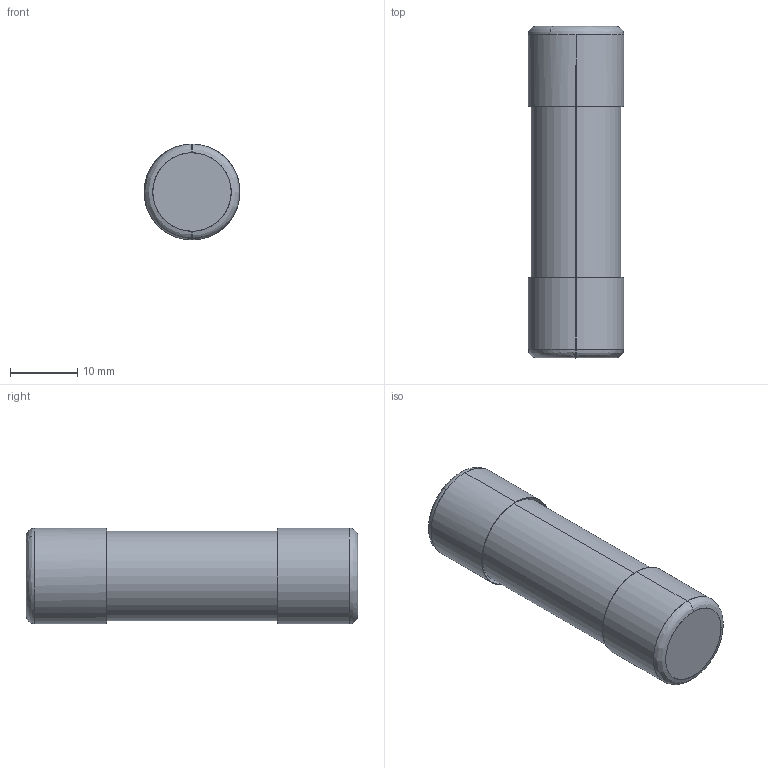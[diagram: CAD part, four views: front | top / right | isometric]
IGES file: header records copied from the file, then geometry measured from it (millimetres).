
Start section: SolidWorks IGES file using analytic representation for surfaces
Global section: file name: U:\14_RD\05_Technical_office\04_Office\Hrdinova\3D modely - IGES\Varius - Ostatní\PV14.IGS; native system: SolidWorks 2011; preprocessor: SolidWorks 2011; author: adhrja3; date: 170620.141229; units: millimetre
Bounding box: 14.25 x 49.39 x 14.25 mm (x, y, z)
Surface area: 5993.4 mm2 (no closed solid volume)
Topology: 0 solids, 0 shells, 36 faces, 508 edges, 508 vertices
Faces by surface type: revolution 20, bspline 16
